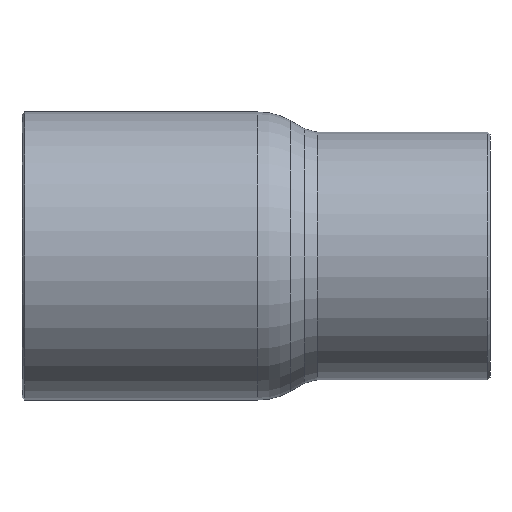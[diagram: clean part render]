
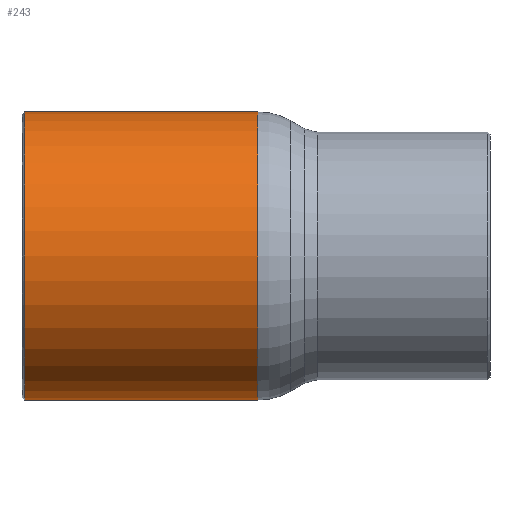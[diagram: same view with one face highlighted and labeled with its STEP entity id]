
A CAD part, front view. The second image highlights one B-rep face of the part: STEP entity #243.
In plain terms, the highlighted cylindrical face has radius 11.113 mm (diameter 22.225 mm), a full revolution.
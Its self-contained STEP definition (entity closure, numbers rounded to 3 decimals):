
#212=CARTESIAN_POINT('',(-24.5,11.113,0.));
#213=VERTEX_POINT('',#212);
#214=CARTESIAN_POINT('',(-24.5,0.0,0.0));
#215=DIRECTION('',(-1.0,0.0,0.0));
#216=DIRECTION('',(0.0,-1.0,0.0));
#217=AXIS2_PLACEMENT_3D('',#214,#215,#216);
#218=CIRCLE('',#217,11.113);
#219=EDGE_CURVE('',#213,#213,#218,.T.);
#224=CARTESIAN_POINT('',(-15.6,0.0,0.0));
#225=DIRECTION('',(1.0,0.0,0.0));
#226=DIRECTION('',(0.0,1.0,0.0));
#227=AXIS2_PLACEMENT_3D('',#224,#225,#226);
#228=CYLINDRICAL_SURFACE('',#227,11.113);
#229=CARTESIAN_POINT('',(-6.5,11.113,0.0));
#230=VERTEX_POINT('',#229);
#231=CARTESIAN_POINT('',(-6.5,0.0,0.0));
#232=DIRECTION('',(1.0,0.0,0.0));
#233=DIRECTION('',(0.0,1.0,0.0));
#234=AXIS2_PLACEMENT_3D('',#231,#232,#233);
#235=CIRCLE('',#234,11.113);
#236=EDGE_CURVE('',#230,#230,#235,.T.);
#237=ORIENTED_EDGE('',*,*,#236,.F.);
#238=EDGE_LOOP('',(#237));
#239=FACE_OUTER_BOUND('',#238,.T.);
#240=ORIENTED_EDGE('',*,*,#219,.F.);
#241=EDGE_LOOP('',(#240));
#242=FACE_BOUND('',#241,.T.);
#243=ADVANCED_FACE('',(#239,#242),#228,.T.);
